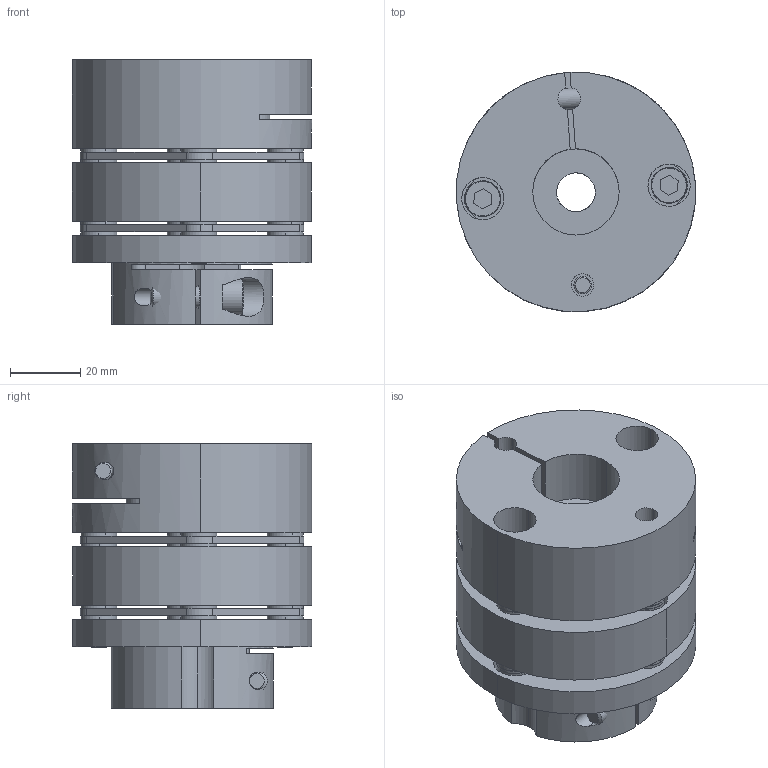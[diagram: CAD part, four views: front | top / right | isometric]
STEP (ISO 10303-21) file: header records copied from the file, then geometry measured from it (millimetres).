
FILE_DESCRIPTION (( 'STEP AP214' ), '1' );
FILE_NAME ('LC-A-060DA-11B-24.5B（B型）.STEP', '2019-09-19T02:07:13', ( 'admin' ), ( 'Microsoft' ), 'SwSTEP 2.0', 'SolidWorks 2016', '' );
FILE_SCHEMA (( 'AUTOMOTIVE_DESIGN' ));
Length unit declared in the file: millimetre
Products named in the file (1): LC-A-060DA-11B-24.5B（B型）
Bounding box: 67.85 x 67.91 x 75.1 mm (x, y, z)
Volume: 171009.5 mm3; surface area: 62289.2 mm2
Topology: 31 solids, 31 shells, 439 faces, 1009 edges, 652 vertices
Faces by surface type: cylinder 206, plane 173, torus 40, cone 20
Entity records: 18205 total; most frequent: CARTESIAN_POINT 2483, DIRECTION 2395, ORIENTED_EDGE 2018, EDGE_CURVE 1009, AXIS2_PLACEMENT_3D 960, VERTEX_POINT 652, EDGE_LOOP 551, CIRCLE 520
